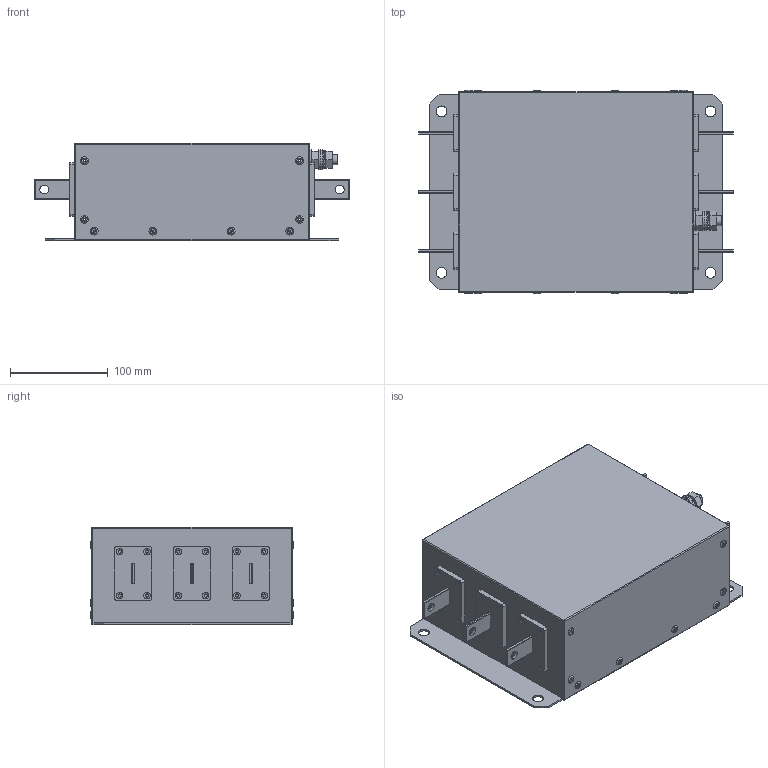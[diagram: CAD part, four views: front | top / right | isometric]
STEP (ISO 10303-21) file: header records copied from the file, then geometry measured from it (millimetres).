
FILE_DESCRIPTION(('STEP AP203'), '1');
FILE_NAME('Ñáîðêà _ IEF-250_484-4', '', ('UNSPECIFIED'), ('UNSPECIFIED'), 'C3D Converter', 'C3D Toolkit', '');
FILE_SCHEMA(('CONFIG_CONTROL_DESIGN'));
Length unit declared in the file: millimetre
Products named in the file (8): IEF-250_484-4
Assembly tree (35 placements, depth 2):
  IEF-250_484-4
    IEF-250_484-4
    IEF-250_484-4  x16
    IEF-250_484-4  x6
    IEF-250_484-4  x6
    IEF-250_484-4  x3
    IEF-250_484-4  x2
    IEF-250_484-4
Bounding box: 322 x 207.6 x 100 mm (x, y, z)
Volume: 4991646.3 mm3; surface area: 304293.5 mm2
Topology: 35 solids, 35 shells, 558 faces, 1181 edges, 729 vertices
Faces by surface type: plane 306, cylinder 179, torus 40, sphere 28, cone 5
Full cylindrical faces by diameter (mm): 2 x16, 3 x60, 9 x6, 10 x7, 11 x4, 18 x1, 20 x3
Entity records: 6596 total; most frequent: CARTESIAN_POINT 1022, DIRECTION 1002, ORIENTED_EDGE 834, EDGE_CURVE 417, AXIS2_PLACEMENT_3D 385, EDGE_LOOP 306, VERTEX_POINT 293, LINE 232
